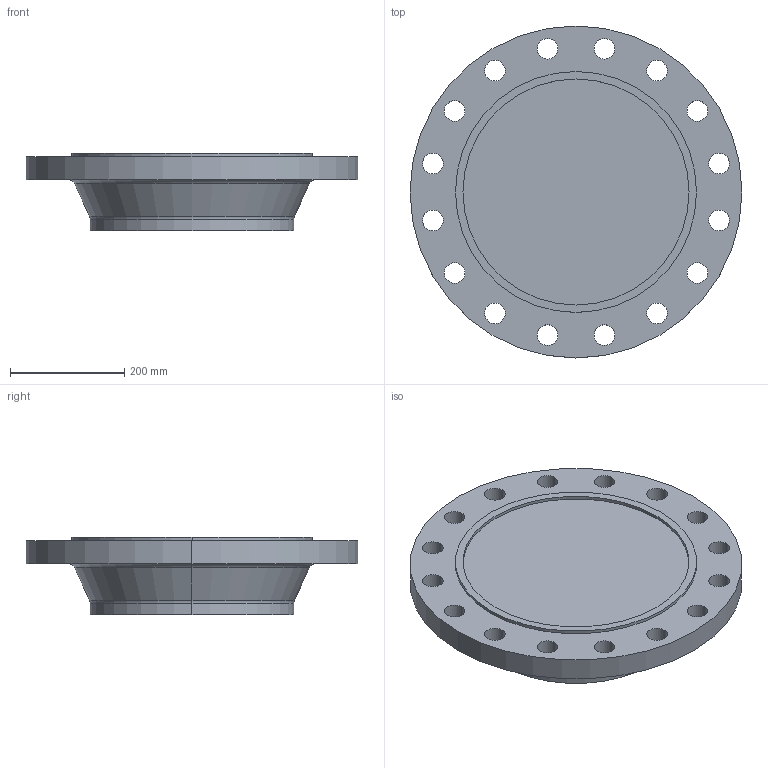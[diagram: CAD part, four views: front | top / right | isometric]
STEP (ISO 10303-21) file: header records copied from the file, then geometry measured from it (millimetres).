
FILE_DESCRIPTION (( 'STEP AP214' ), '1' );
FILE_NAME ('PN40 DN350 Type 21(ii) - Type C Face.STEP', '2019-01-05T21:44:22', ( '' ), ( '' ), 'SwSTEP 2.0', 'SolidWorks 2019', '' );
FILE_SCHEMA (( 'AUTOMOTIVE_DESIGN' ));
Length unit declared in the file: millimetre
Products named in the file (1): PN40 DN350 Type 21(ii) - Type C Face
Bounding box: 580 x 580 x 135 mm (x, y, z)
Volume: 20181280.8 mm3; surface area: 731614.1 mm2
Topology: 1 solids, 1 shells, 51 faces, 132 edges, 86 vertices
Faces by surface type: cylinder 40, plane 5, torus 4, cone 2
Entity records: 1706 total; most frequent: DIRECTION 326, CARTESIAN_POINT 270, ORIENTED_EDGE 264, AXIS2_PLACEMENT_3D 142, EDGE_CURVE 132, CIRCLE 90, VERTEX_POINT 86, EDGE_LOOP 86
